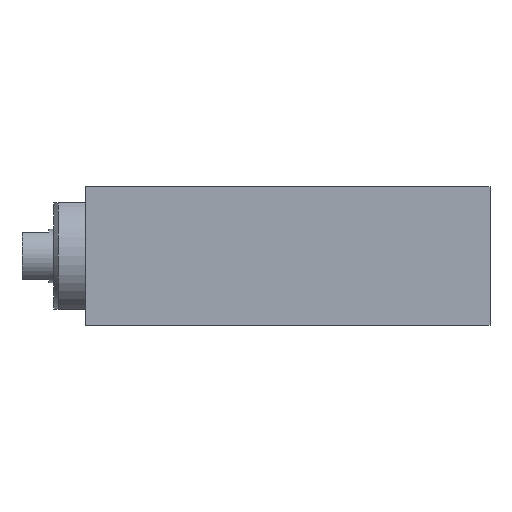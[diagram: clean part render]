
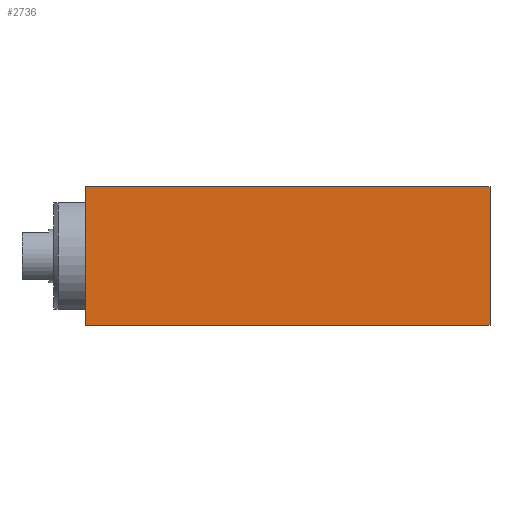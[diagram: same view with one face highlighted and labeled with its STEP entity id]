
A CAD part, front view. The second image highlights one B-rep face of the part: STEP entity #2736.
In plain terms, the highlighted planar face has unit normal (0, -1, 0).
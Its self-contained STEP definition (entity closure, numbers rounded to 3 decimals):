
#55 = CARTESIAN_POINT ( 'NONE',  ( 38., -11., -6.5 ) ) ;
#141 = PLANE ( 'NONE',  #2377 ) ;
#157 = FACE_OUTER_BOUND ( 'NONE', #1687, .T. ) ;
#302 = DIRECTION ( 'NONE',  ( 0., -1., 0. ) ) ;
#310 = CARTESIAN_POINT ( 'NONE',  ( 0., -11., 6.5 ) ) ;
#379 = DIRECTION ( 'NONE',  ( -1., 0., 0. ) ) ;
#394 = VECTOR ( 'NONE', #2782, 1000. ) ;
#444 = VECTOR ( 'NONE', #2643, 1000. ) ;
#498 = EDGE_CURVE ( 'NONE', #2574, #1855, #1797, .T. ) ;
#794 = ORIENTED_EDGE ( 'NONE', *, *, #498, .F. ) ;
#849 = EDGE_CURVE ( 'NONE', #1245, #1954, #1416, .T. ) ;
#936 = VECTOR ( 'NONE', #2808, 1000. ) ;
#949 = CARTESIAN_POINT ( 'NONE',  ( 38., -11., 6.5 ) ) ;
#951 = LINE ( 'NONE', #2352, #936 ) ;
#994 = DIRECTION ( 'NONE',  ( 1., 0., 0. ) ) ;
#1128 = ORIENTED_EDGE ( 'NONE', *, *, #1937, .F. ) ;
#1153 = VECTOR ( 'NONE', #379, 1000. ) ;
#1245 = VERTEX_POINT ( 'NONE', #949 ) ;
#1416 = LINE ( 'NONE', #2539, #394 ) ;
#1687 = EDGE_LOOP ( 'NONE', ( #1128, #794, #2185, #2486 ) ) ;
#1697 = CARTESIAN_POINT ( 'NONE',  ( 0., -11., -6.5 ) ) ;
#1782 = CARTESIAN_POINT ( 'NONE',  ( 38., -11., -6.5 ) ) ;
#1797 = LINE ( 'NONE', #1782, #1153 ) ;
#1855 = VERTEX_POINT ( 'NONE', #2213 ) ;
#1937 = EDGE_CURVE ( 'NONE', #1855, #1954, #2855, .T. ) ;
#1954 = VERTEX_POINT ( 'NONE', #310 ) ;
#2185 = ORIENTED_EDGE ( 'NONE', *, *, #2220, .T. ) ;
#2213 = CARTESIAN_POINT ( 'NONE',  ( 0., -11., -6.5 ) ) ;
#2220 = EDGE_CURVE ( 'NONE', #2574, #1245, #951, .T. ) ;
#2352 = CARTESIAN_POINT ( 'NONE',  ( 38., -11., -6.5 ) ) ;
#2377 = AXIS2_PLACEMENT_3D ( 'NONE', #55, #302, #994 ) ;
#2486 = ORIENTED_EDGE ( 'NONE', *, *, #849, .T. ) ;
#2539 = CARTESIAN_POINT ( 'NONE',  ( 38., -11., 6.5 ) ) ;
#2574 = VERTEX_POINT ( 'NONE', #2603 ) ;
#2603 = CARTESIAN_POINT ( 'NONE',  ( 38., -11., -6.5 ) ) ;
#2643 = DIRECTION ( 'NONE',  ( 0., 0., 1. ) ) ;
#2736 = ADVANCED_FACE ( 'NONE', ( #157 ), #141, .T. ) ;
#2782 = DIRECTION ( 'NONE',  ( -1., 0., 0. ) ) ;
#2808 = DIRECTION ( 'NONE',  ( 0., 0., 1. ) ) ;
#2855 = LINE ( 'NONE', #1697, #444 ) ;
